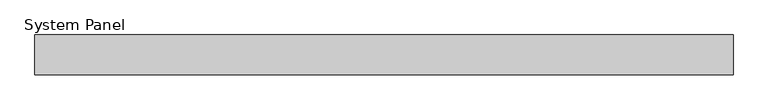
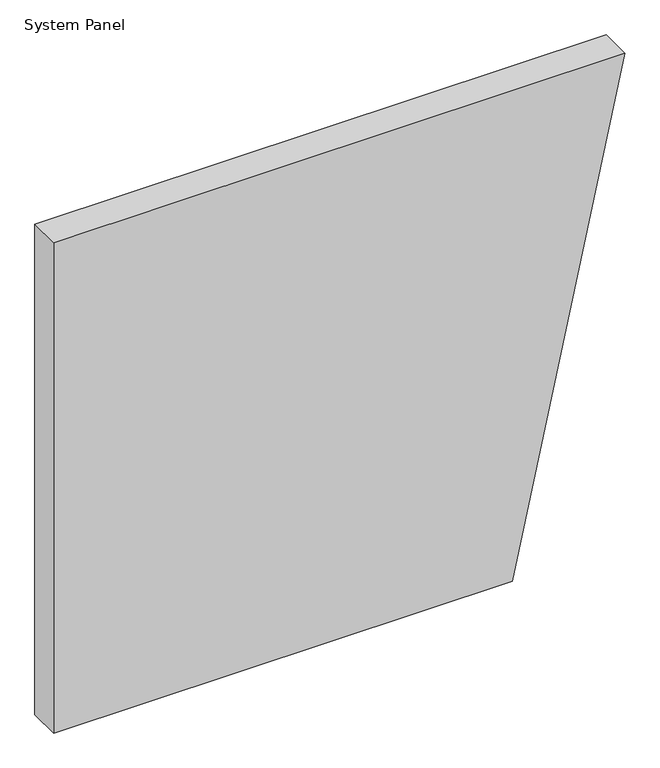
"""IFC4 building model written with IfcOpenShell, lengths in millimetres: plate geometry, System Panel : Equitilt 75mm Horizontal - Plain RHEA - MW."""

from ifc_helpers import new_model, si_unit, frame, origin, place, context, project, spatial, polyline, outline, extrude, source, transform, mapped, element, save


def system_panel_8fc2fa07(model_context):
    return source(origin(), model_context, "Body", "SweptSolid", [
        extrude(outline(polyline([(0.0, -660.8716619), (0.0, 400.0), (1200.0, 660.8716619), (1200.0, -660.8716619), (0.0, -660.8716619)])), frame((0.0, -75.0, 0.0), z_axis=(0.0, 1.0, 0.0), x_axis=(0.0, 0.0, 1.0)), (0.0, 0.0, 1.0), 75.0),
    ])


if __name__ == "__main__":
    model = new_model("IFC4")
    model_context = context("Model", 3, world=origin())
    ifc_project = project(units=[si_unit("LENGTHUNIT", "METRE", prefix="MILLI")], contexts=[model_context])
    site = spatial("IfcSite", under=ifc_project)
    building = spatial("IfcBuilding", under=site)
    placement = place(None, origin())
    system_panel_shape = system_panel_8fc2fa07(model_context)
    element("IfcPlate", 1, ObjectType="System Panel : Equitilt 75mm Horizontal - Plain RHEA - MW", at=placement, inside=building, context=model_context, shape_type="MappedRepresentation", body=[
        mapped(system_panel_shape, transform((0.0, 0.0, 0.0), x_axis=(1.0, 0.0, 0.0), y_axis=(0.0, 1.0, 0.0), z_axis=(0.0, 0.0, 1.0))),
    ])
    save(model, "model.ifc")
